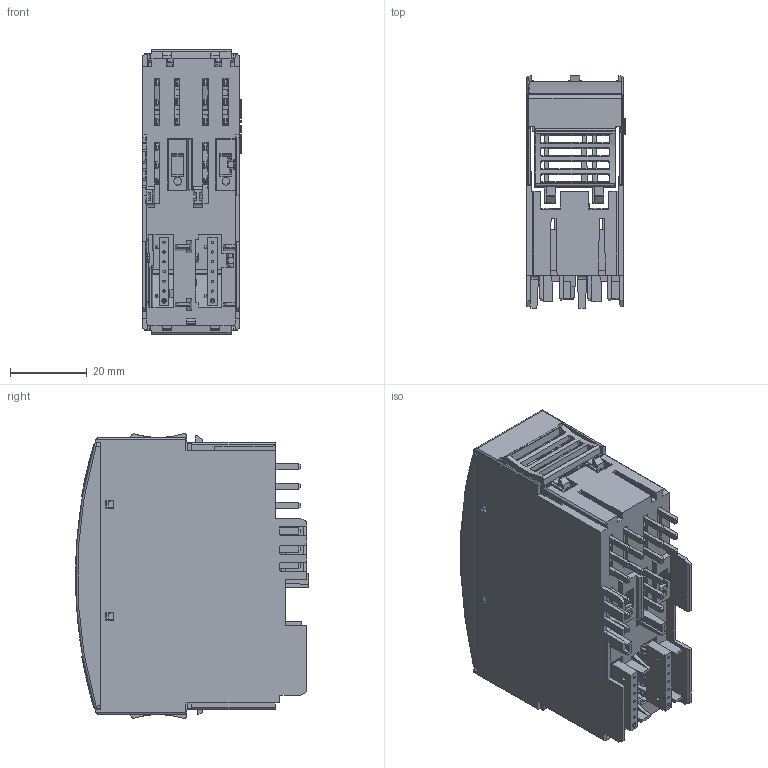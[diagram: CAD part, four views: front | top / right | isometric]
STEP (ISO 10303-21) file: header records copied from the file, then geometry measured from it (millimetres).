
FILE_DESCRIPTION((''),'2;1');
FILE_NAME('2036414_ASM','2024-04-05T09:47:46',('t.hampe'),(''),'CREO PARAMETRIC BY PTC INC, 2019292','CREO PARAMETRIC BY PTC INC, 2019292','');
FILE_SCHEMA(('AUTOMOTIVE_DESIGN { 1 0 10303 214 1 1 1 1 }'));
Products named in the file (3): 2036408; 2036413; 2036414_ASM
Assembly tree (2 placements, depth 2):
  2036414_ASM
    2036408
    2036413
Bounding box: 25.7 x 60.69 x 74.23 mm (x, y, z)
Volume: 17615.6 mm3; surface area: 37321.4 mm2
Topology: 15 solids, 41 shells, 2798 faces, 8822 edges, 5969 vertices
Faces by surface type: plane 2086, cylinder 618, cone 66, bspline 18, extrusion 8, torus 2
Entity records: 137922 total; most frequent: CARTESIAN_POINT 22866, ORIENTED_EDGE 16910, DIRECTION 14265, PRESENTATION_STYLE_ASSIGNMENT 10402, STYLED_ITEM 8866, CURVE_STYLE 8825, EDGE_CURVE 8820, VECTOR 6957
